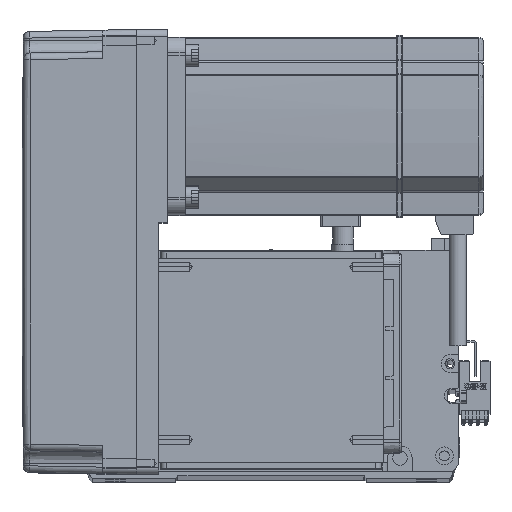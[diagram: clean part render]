
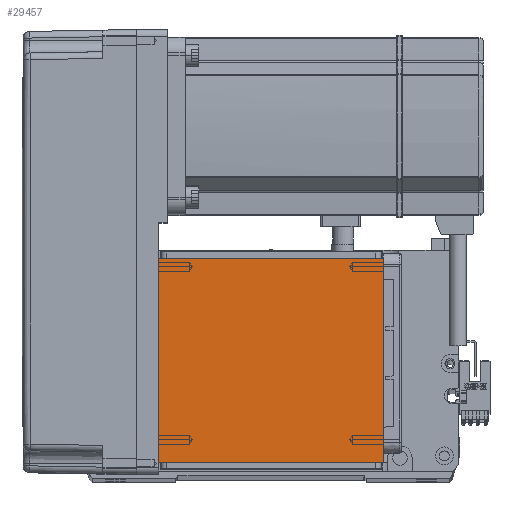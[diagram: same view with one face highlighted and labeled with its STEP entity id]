
A CAD part, top view. The second image highlights one B-rep face of the part: STEP entity #29457.
In plain terms, the highlighted planar face has unit normal (0, 0, 1).
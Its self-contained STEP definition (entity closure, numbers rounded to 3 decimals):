
#750 = CARTESIAN_POINT ( 'NONE',  ( -70.004, 20., 115. ) ) ;
#5065 = AXIS2_PLACEMENT_3D ( 'NONE', #5517, #5882, #27969 ) ;
#5517 = CARTESIAN_POINT ( 'NONE',  ( 0., 0., 115. ) ) ;
#5882 = DIRECTION ( 'NONE',  ( 0., 0., 1. ) ) ;
#8437 = VECTOR ( 'NONE', #25963, 1000. ) ;
#10050 = ORIENTED_EDGE ( 'NONE', *, *, #37640, .T. ) ;
#11342 = CARTESIAN_POINT ( 'NONE',  ( 50.5, 111.5, 115. ) ) ;
#12060 = CARTESIAN_POINT ( 'NONE',  ( -50.5, 122., 115. ) ) ;
#14532 = ORIENTED_EDGE ( 'NONE', *, *, #36351, .F. ) ;
#16569 = LINE ( 'NONE', #750, #34386 ) ;
#17190 = DIRECTION ( 'NONE',  ( 1., 0., 0. ) ) ;
#19131 = EDGE_CURVE ( 'NONE', #56784, #39479, #44690, .T. ) ;
#21382 = CARTESIAN_POINT ( 'NONE',  ( -70.004, 111.5, 115. ) ) ;
#22664 = FACE_OUTER_BOUND ( 'NONE', #42098, .T. ) ;
#23738 = PLANE ( 'NONE',  #5065 ) ;
#25963 = DIRECTION ( 'NONE',  ( 0., -1., 0. ) ) ;
#26711 = VECTOR ( 'NONE', #41825, 1000. ) ;
#27969 = DIRECTION ( 'NONE',  ( 1., 0., 0. ) ) ;
#28590 = CARTESIAN_POINT ( 'NONE',  ( -50.5, 20., 115. ) ) ;
#29457 = ADVANCED_FACE ( 'NONE', ( #22664 ), #23738, .T. ) ;
#33767 = CARTESIAN_POINT ( 'NONE',  ( -50.5, 111.5, 115. ) ) ;
#34386 = VECTOR ( 'NONE', #50981, 1000. ) ;
#36351 = EDGE_CURVE ( 'NONE', #42454, #39479, #16569, .T. ) ;
#36801 = LINE ( 'NONE', #21382, #51004 ) ;
#37263 = CARTESIAN_POINT ( 'NONE',  ( 50.5, 122., 115. ) ) ;
#37640 = EDGE_CURVE ( 'NONE', #42454, #44525, #47211, .T. ) ;
#39479 = VERTEX_POINT ( 'NONE', #28590 ) ;
#41825 = DIRECTION ( 'NONE',  ( 0., 1., 0. ) ) ;
#42098 = EDGE_LOOP ( 'NONE', ( #44431, #43982, #14532, #10050 ) ) ;
#42454 = VERTEX_POINT ( 'NONE', #43904 ) ;
#42935 = EDGE_CURVE ( 'NONE', #56784, #44525, #36801, .T. ) ;
#43904 = CARTESIAN_POINT ( 'NONE',  ( 50.5, 20., 115. ) ) ;
#43982 = ORIENTED_EDGE ( 'NONE', *, *, #19131, .T. ) ;
#44431 = ORIENTED_EDGE ( 'NONE', *, *, #42935, .F. ) ;
#44525 = VERTEX_POINT ( 'NONE', #11342 ) ;
#44690 = LINE ( 'NONE', #12060, #8437 ) ;
#47211 = LINE ( 'NONE', #37263, #26711 ) ;
#50981 = DIRECTION ( 'NONE',  ( -1., 0., 0. ) ) ;
#51004 = VECTOR ( 'NONE', #17190, 1000. ) ;
#56784 = VERTEX_POINT ( 'NONE', #33767 ) ;
